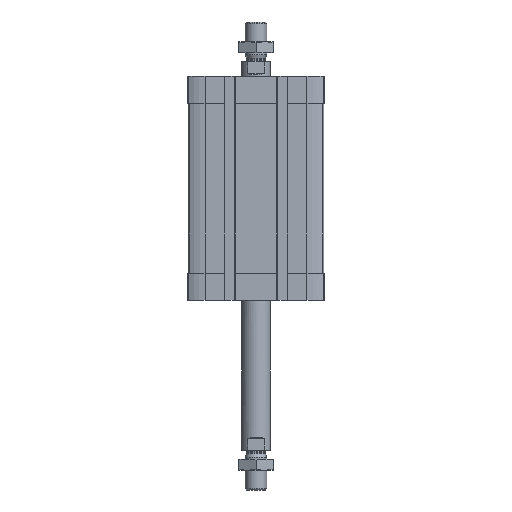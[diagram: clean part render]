
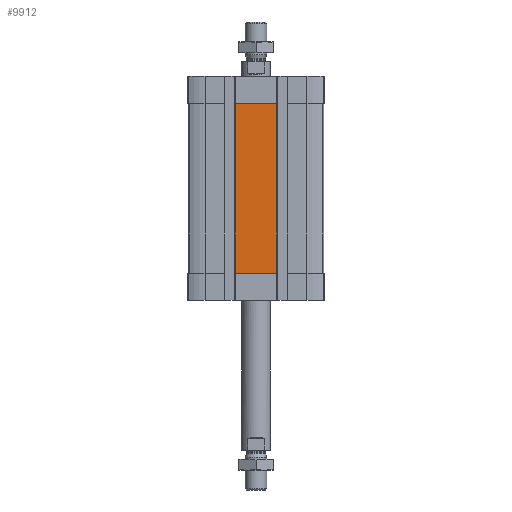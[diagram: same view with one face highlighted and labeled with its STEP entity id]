
A CAD part, front view. The second image highlights one B-rep face of the part: STEP entity #9912.
In plain terms, the highlighted planar face has unit normal (0, -1, 0).
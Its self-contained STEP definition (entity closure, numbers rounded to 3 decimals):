
#129 = EDGE_CURVE ( 'NONE', #5524, #303, #3468, .T. ) ;
#303 = VERTEX_POINT ( 'NONE', #3546 ) ;
#649 = DIRECTION ( 'NONE',  ( 1., 0., 0. ) ) ;
#763 = CARTESIAN_POINT ( 'NONE',  ( -11.4, -37.5, -109. ) ) ;
#767 = CARTESIAN_POINT ( 'NONE',  ( -11.4, -37.5, -109. ) ) ;
#862 = CARTESIAN_POINT ( 'NONE',  ( -11.4, -37.5, -109. ) ) ;
#1306 = EDGE_CURVE ( 'NONE', #5524, #1798, #9918, .T. ) ;
#1338 = EDGE_CURVE ( 'NONE', #1798, #11104, #2077, .T. ) ;
#1567 = VECTOR ( 'NONE', #1820, 1000. ) ;
#1597 = VECTOR ( 'NONE', #649, 1000. ) ;
#1768 = CARTESIAN_POINT ( 'NONE',  ( 11.4, -37.5, -15. ) ) ;
#1798 = VERTEX_POINT ( 'NONE', #9435 ) ;
#1820 = DIRECTION ( 'NONE',  ( 0., 0., 1. ) ) ;
#2077 = LINE ( 'NONE', #13929, #16074 ) ;
#3468 = LINE ( 'NONE', #763, #1567 ) ;
#3546 = CARTESIAN_POINT ( 'NONE',  ( -11.4, -37.5, -15. ) ) ;
#3667 = ORIENTED_EDGE ( 'NONE', *, *, #1306, .T. ) ;
#4439 = DIRECTION ( 'NONE',  ( 0., -1., 0. ) ) ;
#5524 = VERTEX_POINT ( 'NONE', #862 ) ;
#6123 = LINE ( 'NONE', #12565, #1597 ) ;
#6341 = VECTOR ( 'NONE', #12528, 1000. ) ;
#6429 = EDGE_CURVE ( 'NONE', #303, #11104, #6123, .T. ) ;
#6761 = ORIENTED_EDGE ( 'NONE', *, *, #1338, .T. ) ;
#8276 = EDGE_LOOP ( 'NONE', ( #12205, #15908, #3667, #6761 ) ) ;
#8516 = FACE_OUTER_BOUND ( 'NONE', #8276, .T. ) ;
#8616 = DIRECTION ( 'NONE',  ( 0., 0., 1. ) ) ;
#9435 = CARTESIAN_POINT ( 'NONE',  ( 11.4, -37.5, -109. ) ) ;
#9912 = ADVANCED_FACE ( 'NONE', ( #8516 ), #13926, .T. ) ;
#9918 = LINE ( 'NONE', #767, #6341 ) ;
#11104 = VERTEX_POINT ( 'NONE', #1768 ) ;
#11139 = DIRECTION ( 'NONE',  ( 0., 0., -1. ) ) ;
#12205 = ORIENTED_EDGE ( 'NONE', *, *, #6429, .F. ) ;
#12528 = DIRECTION ( 'NONE',  ( 1., 0., 0. ) ) ;
#12565 = CARTESIAN_POINT ( 'NONE',  ( -11.4, -37.5, -15. ) ) ;
#13568 = AXIS2_PLACEMENT_3D ( 'NONE', #16362, #4439, #11139 ) ;
#13926 = PLANE ( 'NONE',  #13568 ) ;
#13929 = CARTESIAN_POINT ( 'NONE',  ( 11.4, -37.5, -109. ) ) ;
#15908 = ORIENTED_EDGE ( 'NONE', *, *, #129, .F. ) ;
#16074 = VECTOR ( 'NONE', #8616, 1000. ) ;
#16362 = CARTESIAN_POINT ( 'NONE',  ( -11.4, -37.5, -109. ) ) ;
